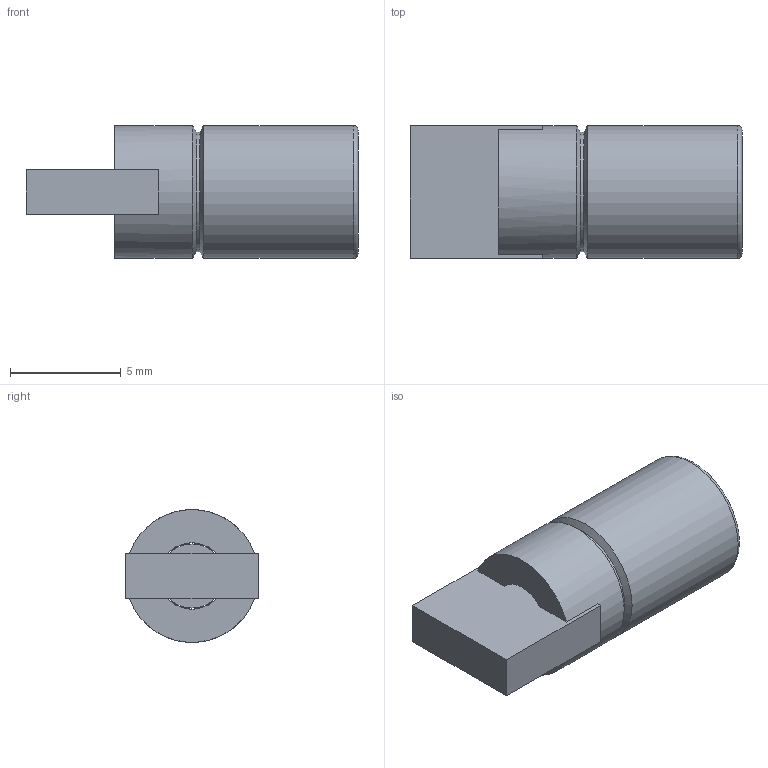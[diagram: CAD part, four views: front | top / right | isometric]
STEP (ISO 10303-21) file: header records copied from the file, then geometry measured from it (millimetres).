
FILE_DESCRIPTION(('FreeCAD Model'),'2;1');
FILE_NAME('Open CASCADE Shape Model','2023-05-06T18:44:57',('Author'),( ''),'Open CASCADE STEP processor 7.5','FreeCAD','Unknown');
FILE_SCHEMA(('AUTOMOTIVE_DESIGN { 1 0 10303 214 1 1 1 1 }'));
Length unit declared in the file: millimetre
Products named in the file (1): laser 500mW HW-483
Bounding box: 15 x 6 x 6 mm (x, y, z)
Volume: 294 mm3; surface area: 491.1 mm2
Topology: 3 solids, 3 shells, 25 faces, 56 edges, 36 vertices
Faces by surface type: plane 16, cylinder 5, cone 2, torus 1, sphere 1
Full cylindrical faces by diameter (mm): 2.9 x1, 3 x1, 5.382 x1, 6 x2
Entity records: 882 total; most frequent: DIRECTION 114, CARTESIAN_POINT 104, ORIENTED_EDGE 90, EDGE_CURVE 45, AXIS2_PLACEMENT_3D 43, EDGE_LOOP 34, VERTEX_POINT 33, FACE_OUTER_BOUND 31
